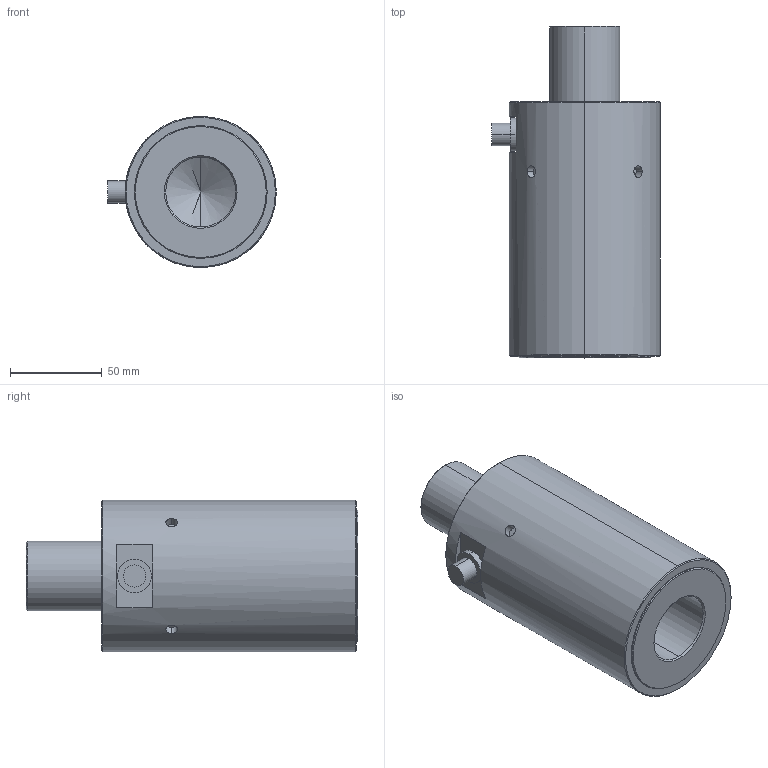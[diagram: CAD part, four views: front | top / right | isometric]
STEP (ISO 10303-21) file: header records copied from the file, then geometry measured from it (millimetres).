
FILE_DESCRIPTION (( 'STEP AP214' ), '1' );
FILE_NAME ('SS1401-500KN.STEP', '2024-08-30T14:32:58', ( '' ), ( '' ), 'SwSTEP 2.0', 'SolidWorks 2008', '' );
FILE_SCHEMA (( 'AUTOMOTIVE_DESIGN' ));
Length unit declared in the file: inch
Products named in the file (1): SS1401-500KN
Bounding box: 92.08 x 181.1 x 82.55 mm (x, y, z)
Volume: 701981 mm3; surface area: 61962 mm2
Topology: 1 solids, 1 shells, 45 faces, 90 edges, 55 vertices
Faces by surface type: cylinder 20, plane 13, cone 12
Entity records: 1425 total; most frequent: CARTESIAN_POINT 445, DIRECTION 216, ORIENTED_EDGE 176, AXIS2_PLACEMENT_3D 90, EDGE_CURVE 88, EDGE_LOOP 55, VERTEX_POINT 55, ADVANCED_FACE 45
